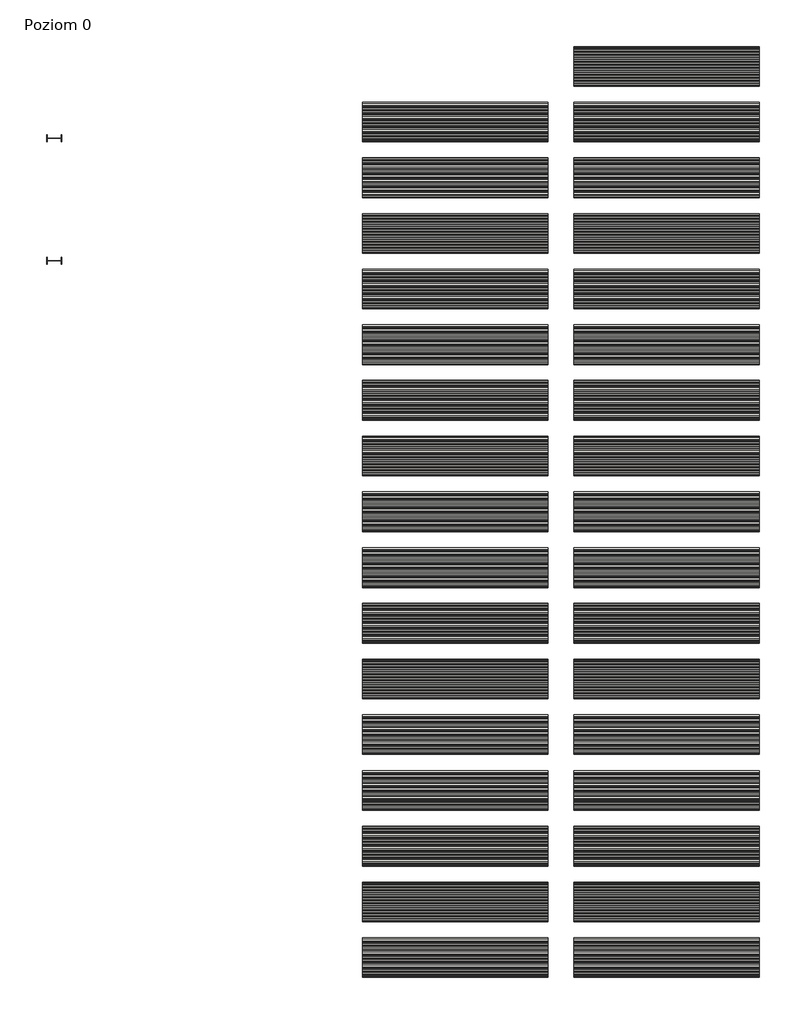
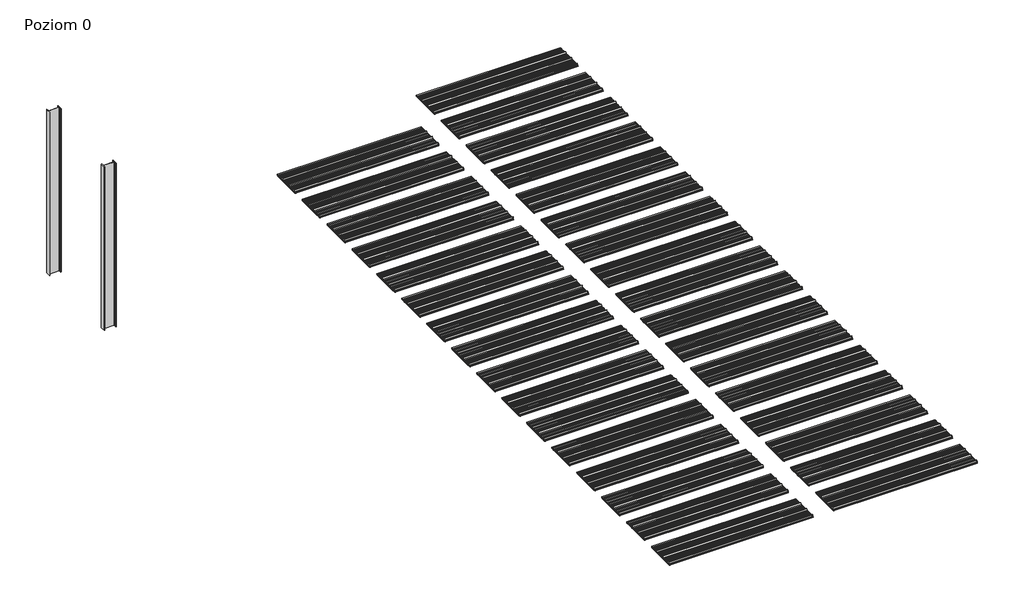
# One storey: 33 coverings, 2 columns.
"""IFC4 building model written with IfcOpenShell, lengths in millimetres."""

from ifc_helpers import new_model, si_unit, origin, place, context, project, spatial, transform, mapped, element, save
from components import standard1_standard_8d04f7a0, covering_82d6ab88

model = new_model("IFC4")

# Units and contexts
model_context = context("Model", 3, world=origin())
ifc_project = project(units=[si_unit("LENGTHUNIT", "METRE", prefix="MILLI")], contexts=[model_context])

# Site, building, storey
site = spatial("IfcSite", under=ifc_project)
building = spatial("IfcBuilding", under=site)
storey = spatial("IfcBuildingStorey", under=building, Name="Poziom 0", Elevation=0.0)

# Columns
placement = place(None, origin())
standard1_standard_shape = standard1_standard_8d04f7a0(model_context)
element("IfcColumn", 1, ObjectType="Standard1 : Standard", at=placement, inside=storey, context=model_context, shape_type="MappedRepresentation", body=[
    mapped(standard1_standard_shape, transform((-652.7962443, -4391.5492704, 0.0), x_axis=(0.0, 1.0, 0.0), y_axis=(-1.0, 0.0, 0.0), z_axis=(0.0, 0.0, 1.0))),
])
element("IfcColumn", 2, ObjectType="Standard1 : Standard", at=placement, inside=storey, context=model_context, shape_type="MappedRepresentation", body=[
    mapped(standard1_standard_shape, transform((-652.7962443, -7696.3492704, 0.0), x_axis=(0.0, 1.0, 0.0), y_axis=(-1.0, 0.0, 0.0), z_axis=(0.0, 0.0, 1.0))),
])

# Coverings
covering_shape = covering_82d6ab88(model_context)
element("IfcCovering", 3, ObjectType="Płyta warstwowa dachowa SPR CORE PIR (pojedynczy arkusz) : -", at=placement, inside=storey, context=model_context, shape_type="MappedRepresentation", body=[
    mapped(covering_shape, transform((12661.4641213, -4505.5974484, 100.0), x_axis=(0.0, -1.0, 0.0), y_axis=(1.0, 0.0, 0.0), z_axis=(0.0, 0.0, 1.0))),
])
element("IfcCovering", 4, ObjectType="Płyta warstwowa dachowa SPR CORE PIR (pojedynczy arkusz) : -", at=placement, inside=storey, context=model_context, shape_type="MappedRepresentation", body=[
    mapped(covering_shape, transform((12661.4641213, -6005.5974484, 100.0), x_axis=(0.0, -1.0, 0.0), y_axis=(1.0, 0.0, 0.0), z_axis=(0.0, 0.0, 1.0))),
])
element("IfcCovering", 5, ObjectType="Płyta warstwowa dachowa SPR CORE PIR (pojedynczy arkusz) : -", at=placement, inside=storey, context=model_context, shape_type="MappedRepresentation", body=[
    mapped(covering_shape, transform((12661.4641213, -7505.5974484, 100.0), x_axis=(0.0, -1.0, 0.0), y_axis=(1.0, 0.0, 0.0), z_axis=(0.0, 0.0, 1.0))),
])
element("IfcCovering", 6, ObjectType="Płyta warstwowa dachowa SPR CORE PIR (pojedynczy arkusz) : -", at=placement, inside=storey, context=model_context, shape_type="MappedRepresentation", body=[
    mapped(covering_shape, transform((12661.4641213, -9005.5974484, 100.0), x_axis=(0.0, -1.0, 0.0), y_axis=(1.0, 0.0, 0.0), z_axis=(0.0, 0.0, 1.0))),
])
element("IfcCovering", 7, ObjectType="Płyta warstwowa dachowa SPR CORE PIR (pojedynczy arkusz) : -", at=placement, inside=storey, context=model_context, shape_type="MappedRepresentation", body=[
    mapped(covering_shape, transform((12661.4641213, -10505.5974484, 100.0), x_axis=(0.0, -1.0, 0.0), y_axis=(1.0, 0.0, 0.0), z_axis=(0.0, 0.0, 1.0))),
])
element("IfcCovering", 8, ObjectType="Płyta warstwowa dachowa SPR CORE PIR (pojedynczy arkusz) : -", at=placement, inside=storey, context=model_context, shape_type="MappedRepresentation", body=[
    mapped(covering_shape, transform((12661.4641213, -12005.5974484, 100.0), x_axis=(0.0, -1.0, 0.0), y_axis=(1.0, 0.0, 0.0), z_axis=(0.0, 0.0, 1.0))),
])
element("IfcCovering", 9, ObjectType="Płyta warstwowa dachowa SPR CORE PIR (pojedynczy arkusz) : -", at=placement, inside=storey, context=model_context, shape_type="MappedRepresentation", body=[
    mapped(covering_shape, transform((12661.4641213, -13505.5974484, 100.0), x_axis=(0.0, -1.0, 0.0), y_axis=(1.0, 0.0, 0.0), z_axis=(0.0, 0.0, 1.0))),
])
element("IfcCovering", 10, ObjectType="Płyta warstwowa dachowa SPR CORE PIR (pojedynczy arkusz) : -", at=placement, inside=storey, context=model_context, shape_type="MappedRepresentation", body=[
    mapped(covering_shape, transform((12661.4641213, -15005.5974484, 100.0), x_axis=(0.0, -1.0, 0.0), y_axis=(1.0, 0.0, 0.0), z_axis=(0.0, 0.0, 1.0))),
])
element("IfcCovering", 11, ObjectType="Płyta warstwowa dachowa SPR CORE PIR (pojedynczy arkusz) : -", at=placement, inside=storey, context=model_context, shape_type="MappedRepresentation", body=[
    mapped(covering_shape, transform((12661.4641213, -16515.082932, 100.0), x_axis=(0.0, -1.0, 0.0), y_axis=(1.0, 0.0, 0.0), z_axis=(0.0, 0.0, 1.0))),
])
element("IfcCovering", 12, ObjectType="Płyta warstwowa dachowa SPR CORE PIR (pojedynczy arkusz) : -", at=placement, inside=storey, context=model_context, shape_type="MappedRepresentation", body=[
    mapped(covering_shape, transform((12661.4641213, -18015.082932, 100.0), x_axis=(0.0, -1.0, 0.0), y_axis=(1.0, 0.0, 0.0), z_axis=(0.0, 0.0, 1.0))),
])
element("IfcCovering", 13, ObjectType="Płyta warstwowa dachowa SPR CORE PIR (pojedynczy arkusz) : -", at=placement, inside=storey, context=model_context, shape_type="MappedRepresentation", body=[
    mapped(covering_shape, transform((12661.4641213, -19515.082932, 100.0), x_axis=(0.0, -1.0, 0.0), y_axis=(1.0, 0.0, 0.0), z_axis=(0.0, 0.0, 1.0))),
])
element("IfcCovering", 14, ObjectType="Płyta warstwowa dachowa SPR CORE PIR (pojedynczy arkusz) : -", at=placement, inside=storey, context=model_context, shape_type="MappedRepresentation", body=[
    mapped(covering_shape, transform((12661.4641213, -21015.082932, 100.0), x_axis=(0.0, -1.0, 0.0), y_axis=(1.0, 0.0, 0.0), z_axis=(0.0, 0.0, 1.0))),
])
element("IfcCovering", 15, ObjectType="Płyta warstwowa dachowa SPR CORE PIR (pojedynczy arkusz) : -", at=placement, inside=storey, context=model_context, shape_type="MappedRepresentation", body=[
    mapped(covering_shape, transform((12661.4641213, -22524.5684156, 100.0), x_axis=(0.0, -1.0, 0.0), y_axis=(1.0, 0.0, 0.0), z_axis=(0.0, 0.0, 1.0))),
])
element("IfcCovering", 16, ObjectType="Płyta warstwowa dachowa SPR CORE PIR (pojedynczy arkusz) : -", at=placement, inside=storey, context=model_context, shape_type="MappedRepresentation", body=[
    mapped(covering_shape, transform((12661.4641213, -24024.5684156, 100.0), x_axis=(0.0, -1.0, 0.0), y_axis=(1.0, 0.0, 0.0), z_axis=(0.0, 0.0, 1.0))),
])
element("IfcCovering", 17, ObjectType="Płyta warstwowa dachowa SPR CORE PIR (pojedynczy arkusz) : -", at=placement, inside=storey, context=model_context, shape_type="MappedRepresentation", body=[
    mapped(covering_shape, transform((12661.4641213, -25524.5684156, 100.0), x_axis=(0.0, -1.0, 0.0), y_axis=(1.0, 0.0, 0.0), z_axis=(0.0, 0.0, 1.0))),
])
element("IfcCovering", 18, ObjectType="Płyta warstwowa dachowa SPR CORE PIR (pojedynczy arkusz) : -", at=placement, inside=storey, context=model_context, shape_type="MappedRepresentation", body=[
    mapped(covering_shape, transform((12661.4641213, -27024.5684156, 100.0), x_axis=(0.0, -1.0, 0.0), y_axis=(1.0, 0.0, 0.0), z_axis=(0.0, 0.0, 1.0))),
])
element("IfcCovering", 19, ObjectType="Płyta warstwowa dachowa SPR CORE PIR (pojedynczy arkusz) : -", at=placement, inside=storey, context=model_context, shape_type="MappedRepresentation", body=[
    mapped(covering_shape, transform((18361.4641213, -4505.5974484, 100.0), x_axis=(0.0, -1.0, 0.0), y_axis=(1.0, 0.0, 0.0), z_axis=(0.0, 0.0, 1.0))),
])
element("IfcCovering", 20, ObjectType="Płyta warstwowa dachowa SPR CORE PIR (pojedynczy arkusz) : -", at=placement, inside=storey, context=model_context, shape_type="MappedRepresentation", body=[
    mapped(covering_shape, transform((18361.4641213, -6005.5974484, 100.0), x_axis=(0.0, -1.0, 0.0), y_axis=(1.0, 0.0, 0.0), z_axis=(0.0, 0.0, 1.0))),
])
element("IfcCovering", 21, ObjectType="Płyta warstwowa dachowa SPR CORE PIR (pojedynczy arkusz) : -", at=placement, inside=storey, context=model_context, shape_type="MappedRepresentation", body=[
    mapped(covering_shape, transform((18361.4641213, -7505.5974484, 100.0), x_axis=(0.0, -1.0, 0.0), y_axis=(1.0, 0.0, 0.0), z_axis=(0.0, 0.0, 1.0))),
])
element("IfcCovering", 22, ObjectType="Płyta warstwowa dachowa SPR CORE PIR (pojedynczy arkusz) : -", at=placement, inside=storey, context=model_context, shape_type="MappedRepresentation", body=[
    mapped(covering_shape, transform((18361.4641213, -9005.5974484, 100.0), x_axis=(0.0, -1.0, 0.0), y_axis=(1.0, 0.0, 0.0), z_axis=(0.0, 0.0, 1.0))),
])
element("IfcCovering", 23, ObjectType="Płyta warstwowa dachowa SPR CORE PIR (pojedynczy arkusz) : -", at=placement, inside=storey, context=model_context, shape_type="MappedRepresentation", body=[
    mapped(covering_shape, transform((18361.4641213, -10505.5974484, 100.0), x_axis=(0.0, -1.0, 0.0), y_axis=(1.0, 0.0, 0.0), z_axis=(0.0, 0.0, 1.0))),
])
element("IfcCovering", 24, ObjectType="Płyta warstwowa dachowa SPR CORE PIR (pojedynczy arkusz) : -", at=placement, inside=storey, context=model_context, shape_type="MappedRepresentation", body=[
    mapped(covering_shape, transform((18361.4641213, -12005.5974484, 100.0), x_axis=(0.0, -1.0, 0.0), y_axis=(1.0, 0.0, 0.0), z_axis=(0.0, 0.0, 1.0))),
])
element("IfcCovering", 25, ObjectType="Płyta warstwowa dachowa SPR CORE PIR (pojedynczy arkusz) : -", at=placement, inside=storey, context=model_context, shape_type="MappedRepresentation", body=[
    mapped(covering_shape, transform((18361.4641213, -13505.5974484, 100.0), x_axis=(0.0, -1.0, 0.0), y_axis=(1.0, 0.0, 0.0), z_axis=(0.0, 0.0, 1.0))),
])
element("IfcCovering", 26, ObjectType="Płyta warstwowa dachowa SPR CORE PIR (pojedynczy arkusz) : -", at=placement, inside=storey, context=model_context, shape_type="MappedRepresentation", body=[
    mapped(covering_shape, transform((18361.4641213, -15005.5974484, 100.0), x_axis=(0.0, -1.0, 0.0), y_axis=(1.0, 0.0, 0.0), z_axis=(0.0, 0.0, 1.0))),
])
element("IfcCovering", 27, ObjectType="Płyta warstwowa dachowa SPR CORE PIR (pojedynczy arkusz) : -", at=placement, inside=storey, context=model_context, shape_type="MappedRepresentation", body=[
    mapped(covering_shape, transform((18361.4641213, -16515.082932, 100.0), x_axis=(0.0, -1.0, 0.0), y_axis=(1.0, 0.0, 0.0), z_axis=(0.0, 0.0, 1.0))),
])
element("IfcCovering", 28, ObjectType="Płyta warstwowa dachowa SPR CORE PIR (pojedynczy arkusz) : -", at=placement, inside=storey, context=model_context, shape_type="MappedRepresentation", body=[
    mapped(covering_shape, transform((18361.4641213, -18015.082932, 100.0), x_axis=(0.0, -1.0, 0.0), y_axis=(1.0, 0.0, 0.0), z_axis=(0.0, 0.0, 1.0))),
])
element("IfcCovering", 29, ObjectType="Płyta warstwowa dachowa SPR CORE PIR (pojedynczy arkusz) : -", at=placement, inside=storey, context=model_context, shape_type="MappedRepresentation", body=[
    mapped(covering_shape, transform((18361.4641213, -19515.082932, 100.0), x_axis=(0.0, -1.0, 0.0), y_axis=(1.0, 0.0, 0.0), z_axis=(0.0, 0.0, 1.0))),
])
element("IfcCovering", 30, ObjectType="Płyta warstwowa dachowa SPR CORE PIR (pojedynczy arkusz) : -", at=placement, inside=storey, context=model_context, shape_type="MappedRepresentation", body=[
    mapped(covering_shape, transform((18361.4641213, -21015.082932, 100.0), x_axis=(0.0, -1.0, 0.0), y_axis=(1.0, 0.0, 0.0), z_axis=(0.0, 0.0, 1.0))),
])
element("IfcCovering", 31, ObjectType="Płyta warstwowa dachowa SPR CORE PIR (pojedynczy arkusz) : -", at=placement, inside=storey, context=model_context, shape_type="MappedRepresentation", body=[
    mapped(covering_shape, transform((18361.4641213, -22524.5684156, 100.0), x_axis=(0.0, -1.0, 0.0), y_axis=(1.0, 0.0, 0.0), z_axis=(0.0, 0.0, 1.0))),
])
element("IfcCovering", 32, ObjectType="Płyta warstwowa dachowa SPR CORE PIR (pojedynczy arkusz) : -", at=placement, inside=storey, context=model_context, shape_type="MappedRepresentation", body=[
    mapped(covering_shape, transform((18361.4641213, -24024.5684156, 100.0), x_axis=(0.0, -1.0, 0.0), y_axis=(1.0, 0.0, 0.0), z_axis=(0.0, 0.0, 1.0))),
])
element("IfcCovering", 33, ObjectType="Płyta warstwowa dachowa SPR CORE PIR (pojedynczy arkusz) : -", at=placement, inside=storey, context=model_context, shape_type="MappedRepresentation", body=[
    mapped(covering_shape, transform((18361.4641213, -25524.5684156, 100.0), x_axis=(0.0, -1.0, 0.0), y_axis=(1.0, 0.0, 0.0), z_axis=(0.0, 0.0, 1.0))),
])
element("IfcCovering", 34, ObjectType="Płyta warstwowa dachowa SPR CORE PIR (pojedynczy arkusz) : -", at=placement, inside=storey, context=model_context, shape_type="MappedRepresentation", body=[
    mapped(covering_shape, transform((18361.4641213, -27024.5684156, 100.0), x_axis=(0.0, -1.0, 0.0), y_axis=(1.0, 0.0, 0.0), z_axis=(0.0, 0.0, 1.0))),
])
element("IfcCovering", 35, ObjectType="Płyta warstwowa dachowa SPR CORE PIR (pojedynczy arkusz) : -", at=placement, inside=storey, context=model_context, shape_type="MappedRepresentation", body=[
    mapped(covering_shape, transform((18361.4641213, -3005.5974484, 100.0), x_axis=(0.0, -1.0, 0.0), y_axis=(1.0, 0.0, 0.0), z_axis=(0.0, 0.0, 1.0))),
])

save(model, "model.ifc")
